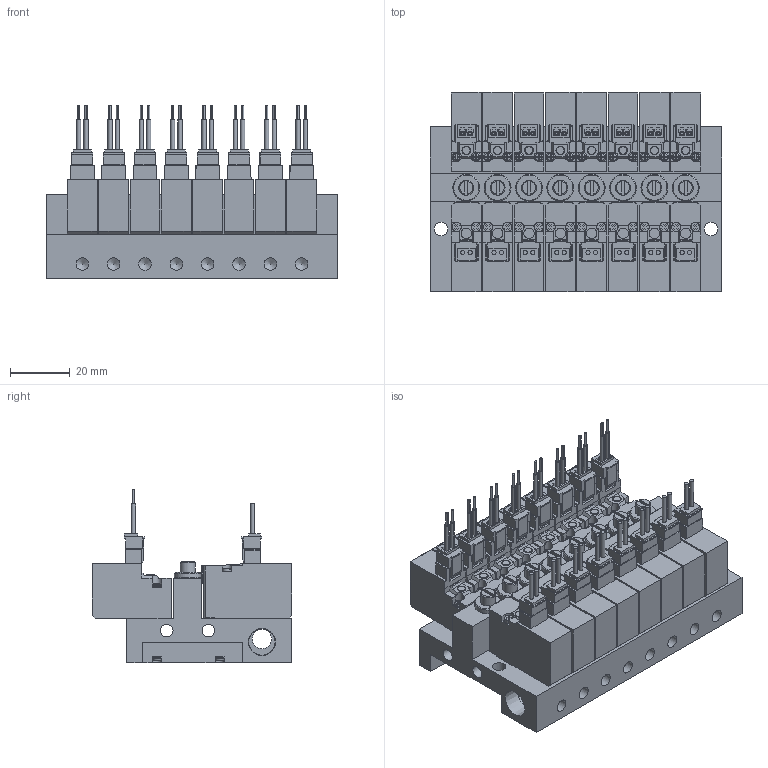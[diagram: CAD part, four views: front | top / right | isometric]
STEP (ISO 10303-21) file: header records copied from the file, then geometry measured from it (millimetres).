
FILE_DESCRIPTION(('STEP AP203'),'1');
FILE_NAME('2-NO(NC)-4EZ-M08.stp','2025-05-09T00:55:24',(' '),(' '),'Spatial InterOp 3D',' ',' ');
FILE_SCHEMA(('CONFIG_CONTROL_DESIGN'));
Length unit declared in the file: millimetre
Products named in the file (90): PV1※2-NO(NC)-4EZ-M08; BODY; PLATE; NEEDLE; BOLT; SOLENOID VALVE VOLTAGE PV; 42; 45; 48; 51; SOLENOID VALVE VOLTAGE PV-NC2
Assembly tree (89 placements, depth 3):
  PV1※2-NO(NC)-4EZ-M08
    BODY
    PLATE
    PLATE
    NEEDLE
    BOLT
    BOLT
    BOLT
    BOLT
    BOLT
    BOLT
    SOLENOID VALVE VOLTAGE PV
      42
      45
      48
      51
    NEEDLE
    SOLENOID VALVE VOLTAGE PV
      42
      45
      48
      51
    NEEDLE
    SOLENOID VALVE VOLTAGE PV
      42
      45
      48
      51
    PLATE
    BOLT
    BOLT
    BOLT
    PLATE
    BOLT
    BOLT
    BOLT
    NEEDLE
    SOLENOID VALVE VOLTAGE PV
      42
      45
      48
      51
    NEEDLE
    SOLENOID VALVE VOLTAGE PV
      42
      45
      48
      51
    PLATE
    BOLT
    BOLT
    BOLT
    SOLENOID VALVE VOLTAGE PV
      42
      45
      48
      51
    NEEDLE
    PLATE
    BOLT
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Bounding box: 97.5 x 66.8 x 58.25 mm (x, y, z)
Volume: 164373.3 mm3; surface area: 83239.4 mm2
Topology: 81 solids, 81 shells, 3217 faces, 8966 edges, 6089 vertices
Faces by surface type: plane 2392, cylinder 567, torus 128, bspline 80, cone 50
Full cylindrical faces by diameter (mm): 1.4 x16, 2 x24, 3 x40, 3.5 x8, 4.2 x18, 4.5 x2, 5 x8, 6.5 x1, 8.797 x2, 9 x8
Entity records: 107434 total; most frequent: CARTESIAN_POINT 19543, DIRECTION 17402, ORIENTED_EDGE 17272, EDGE_CURVE 8636, VERTEX_POINT 5976, LINE 5956, VECTOR 5956, AXIS2_PLACEMENT_3D 5723
